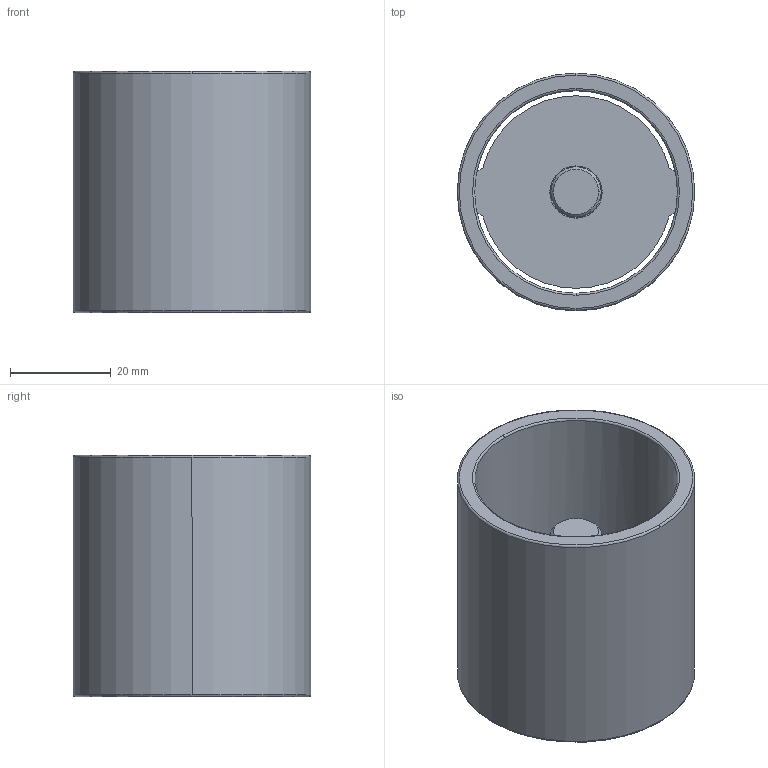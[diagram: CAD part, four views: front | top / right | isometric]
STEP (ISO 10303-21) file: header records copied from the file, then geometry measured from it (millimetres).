
FILE_DESCRIPTION((''),'2;1');
FILE_NAME('C11_040_048.stp','2009-01-12T09:43:23',(''),(''),'Mechanical Desktop 2009','Mechanical Desktop 2009',', , ');
FILE_SCHEMA(('CONFIG_CONTROL_DESIGN'));
Length unit declared in the file: millimetre
Products named in the file (2): Product; blmdl1
Assembly tree (1 placements, depth 2):
  Product
    blmdl1
Bounding box: 47.25 x 47.25 x 48 mm (x, y, z)
Volume: 27841.1 mm3; surface area: 18153.3 mm2
Topology: 3 solids, 3 shells, 44 faces, 110 edges, 74 vertices
Faces by surface type: cylinder 16, plane 16, torus 10, cone 2
Entity records: 1507 total; most frequent: CARTESIAN_POINT 274, DIRECTION 266, ORIENTED_EDGE 220, AXIS2_PLACEMENT_3D 114, EDGE_CURVE 110, VERTEX_POINT 74, CIRCLE 68, EDGE_LOOP 50
